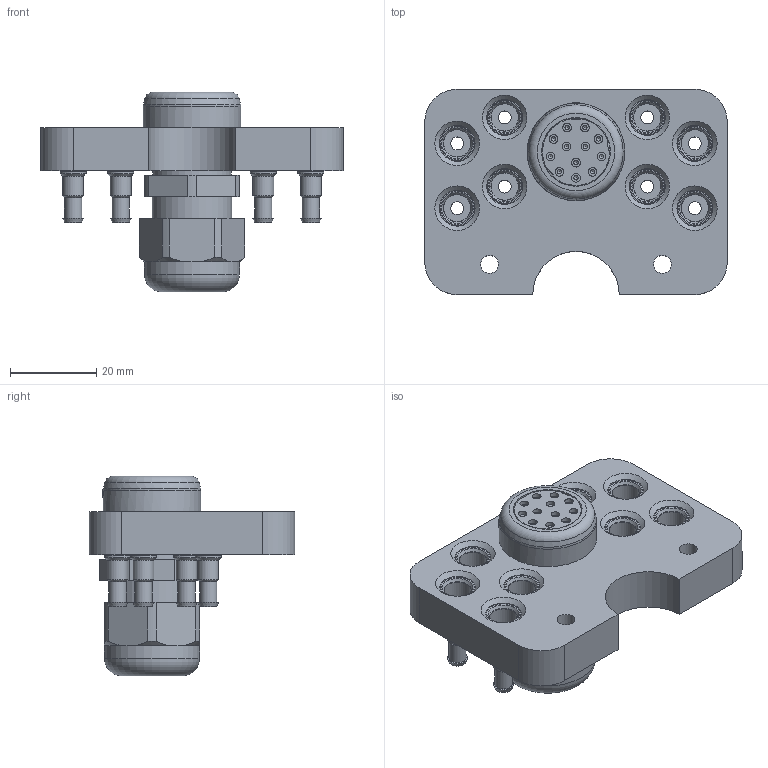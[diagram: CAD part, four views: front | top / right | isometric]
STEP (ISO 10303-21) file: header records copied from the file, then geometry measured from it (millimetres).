
FILE_DESCRIPTION((''),'2;1');
FILE_NAME('T:\CAD\Standard\Daten\Datenbank STANDARD 00\3 MEK\4 - 3D-CAD-Daten MEK 063-160\MEK160\step-Daten\G-MEK160-U-8Pk4-1E12.stp','2012-12-14T14:34:28',('Yvonne'),(''),'Autodesk Inventor 2011','Autodesk Inventor 2011','');
FILE_SCHEMA(('AUTOMOTIVE_DESIGN { 1 0 10303 214 1 1 1 1 }'));
Length unit declared in the file: millimetre
Products named in the file (1): Bauteil2
Bounding box: 70 x 47.5 x 46.2 mm (x, y, z)
Volume: 38575.7 mm3; surface area: 21940.4 mm2
Topology: 1 solids, 1 shells, 461 faces, 1055 edges, 649 vertices
Faces by surface type: cylinder 179, plane 160, cone 83, torus 39
Full cylindrical faces by diameter (mm): 1 x12, 1.6 x12, 2 x26, 3 x8, 4 x8, 4.134 x2, 4.8 x8, 5.5 x8, 5.9 x8, 6 x8, 6.3 x8, 8 x8, 8.3 x8, 10 x1, 14 x1, 15.9 x1, 17.1 x1, 18.1 x1, 18.5 x1, 22 x1, 22.6 x1
Entity records: 13196 total; most frequent: CARTESIAN_POINT 3294, DIRECTION 2055, ORIENTED_EDGE 1564, AXIS2_PLACEMENT_3D 892, EDGE_LOOP 790, EDGE_CURVE 782, VERTEX_POINT 586, FACE_OUTER_BOUND 459
